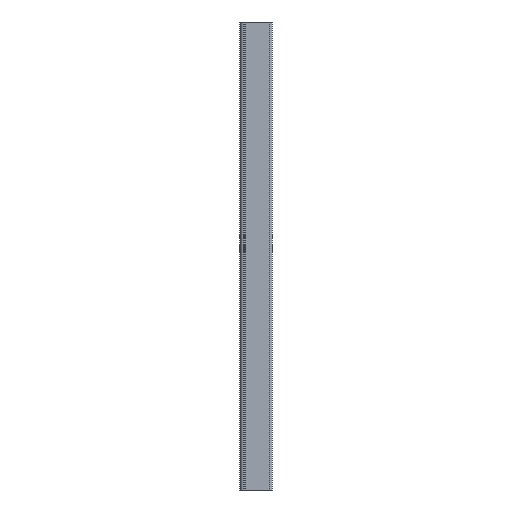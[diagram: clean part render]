
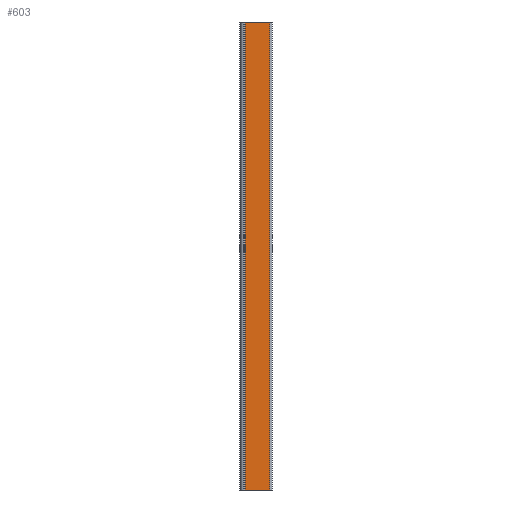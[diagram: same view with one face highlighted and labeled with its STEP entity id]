
A CAD part, front view. The second image highlights one B-rep face of the part: STEP entity #603.
In plain terms, the highlighted planar face has unit normal (0, -1, 0).
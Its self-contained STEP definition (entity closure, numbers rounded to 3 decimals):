
#13 = CARTESIAN_POINT ( 'NONE',  ( 12., -15., 0. ) ) ;
#56 = FACE_OUTER_BOUND ( 'NONE', #222, .T. ) ;
#61 = ORIENTED_EDGE ( 'NONE', *, *, #115, .F. ) ;
#115 = EDGE_CURVE ( 'NONE', #395, #652, #760, .T. ) ;
#148 = VECTOR ( 'NONE', #1269, 1000. ) ;
#179 = CARTESIAN_POINT ( 'NONE',  ( -16.2, -15., 0. ) ) ;
#189 = DIRECTION ( 'NONE',  ( -1., 0., 0. ) ) ;
#222 = EDGE_LOOP ( 'NONE', ( #61, #616, #922, #857 ) ) ;
#253 = LINE ( 'NONE', #802, #148 ) ;
#295 = VERTEX_POINT ( 'NONE', #1473 ) ;
#318 = CARTESIAN_POINT ( 'NONE',  ( -16.2, -15., 500. ) ) ;
#342 = LINE ( 'NONE', #793, #743 ) ;
#368 = LINE ( 'NONE', #179, #1076 ) ;
#375 = DIRECTION ( 'NONE',  ( 1., 0., 0. ) ) ;
#395 = VERTEX_POINT ( 'NONE', #1059 ) ;
#603 = ADVANCED_FACE ( 'NONE', ( #56 ), #632, .F. ) ;
#616 = ORIENTED_EDGE ( 'NONE', *, *, #846, .T. ) ;
#632 = PLANE ( 'NONE',  #660 ) ;
#652 = VERTEX_POINT ( 'NONE', #1456 ) ;
#655 = VECTOR ( 'NONE', #983, 1000. ) ;
#660 = AXIS2_PLACEMENT_3D ( 'NONE', #1318, #1218, #189 ) ;
#743 = VECTOR ( 'NONE', #1251, 1000. ) ;
#760 = LINE ( 'NONE', #318, #655 ) ;
#791 = VERTEX_POINT ( 'NONE', #13 ) ;
#793 = CARTESIAN_POINT ( 'NONE',  ( 12., -15., 500. ) ) ;
#802 = CARTESIAN_POINT ( 'NONE',  ( -14.2, -15., 0. ) ) ;
#846 = EDGE_CURVE ( 'NONE', #395, #295, #253, .T. ) ;
#857 = ORIENTED_EDGE ( 'NONE', *, *, #1424, .T. ) ;
#922 = ORIENTED_EDGE ( 'NONE', *, *, #1255, .T. ) ;
#983 = DIRECTION ( 'NONE',  ( 1., 0., 0. ) ) ;
#1059 = CARTESIAN_POINT ( 'NONE',  ( -14.2, -15., 500. ) ) ;
#1076 = VECTOR ( 'NONE', #375, 1000. ) ;
#1218 = DIRECTION ( 'NONE',  ( 0., 1., 0. ) ) ;
#1251 = DIRECTION ( 'NONE',  ( 0., 0., 1. ) ) ;
#1255 = EDGE_CURVE ( 'NONE', #295, #791, #368, .T. ) ;
#1269 = DIRECTION ( 'NONE',  ( 0., 0., -1. ) ) ;
#1318 = CARTESIAN_POINT ( 'NONE',  ( -16.2, -15., 500. ) ) ;
#1424 = EDGE_CURVE ( 'NONE', #791, #652, #342, .T. ) ;
#1456 = CARTESIAN_POINT ( 'NONE',  ( 12., -15., 500. ) ) ;
#1473 = CARTESIAN_POINT ( 'NONE',  ( -14.2, -15., 0. ) ) ;
